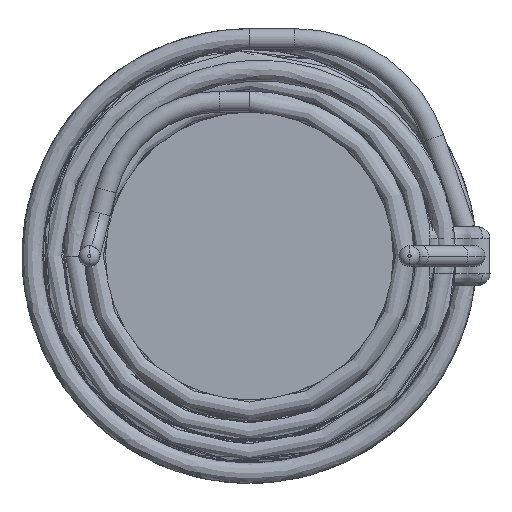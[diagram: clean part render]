
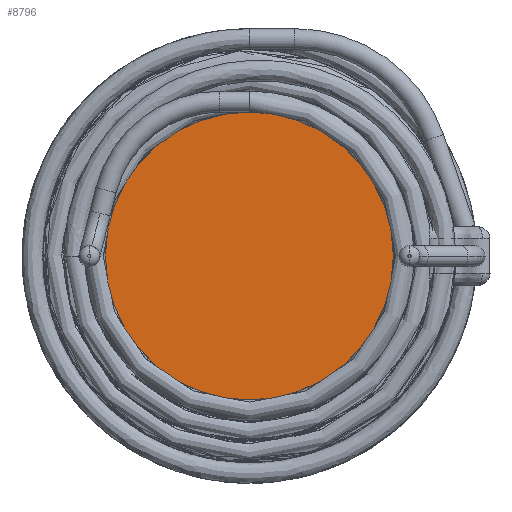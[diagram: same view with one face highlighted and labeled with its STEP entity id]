
A CAD part, front view. The second image highlights one B-rep face of the part: STEP entity #8796.
In plain terms, the highlighted planar face has unit normal (0, -1, 0).
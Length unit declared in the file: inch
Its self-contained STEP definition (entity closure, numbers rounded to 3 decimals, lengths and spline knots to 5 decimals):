
#113 = EDGE_CURVE ( 'NONE', #11225, #24213, #22740, .T. ) ;
#661 = CARTESIAN_POINT ( 'NONE',  ( 0., 0., 0.19291 ) ) ;
#4396 = DIRECTION ( 'NONE',  ( 0., 0., 1. ) ) ;
#7011 = DIRECTION ( 'NONE',  ( 0., 0., 1. ) ) ;
#7336 = DIRECTION ( 'NONE',  ( 0., 1., 0. ) ) ;
#7725 = AXIS2_PLACEMENT_3D ( 'NONE', #17826, #27146, #7011 ) ;
#8627 = AXIS2_PLACEMENT_3D ( 'NONE', #30408, #25028, #24510 ) ;
#8796 = ADVANCED_FACE ( 'NONE', ( #24024 ), #26012, .F. ) ;
#9121 = EDGE_CURVE ( 'NONE', #24213, #11225, #30206, .T. ) ;
#9800 = CARTESIAN_POINT ( 'NONE',  ( 0., 0., 0. ) ) ;
#11225 = VERTEX_POINT ( 'NONE', #23510 ) ;
#17608 = EDGE_LOOP ( 'NONE', ( #23652, #29989 ) ) ;
#17826 = CARTESIAN_POINT ( 'NONE',  ( 0., 0., 0. ) ) ;
#22740 = CIRCLE ( 'NONE', #7725, 0.19291 ) ;
#23510 = CARTESIAN_POINT ( 'NONE',  ( 0., 0., -0.19291 ) ) ;
#23652 = ORIENTED_EDGE ( 'NONE', *, *, #113, .F. ) ;
#24024 = FACE_OUTER_BOUND ( 'NONE', #17608, .T. ) ;
#24213 = VERTEX_POINT ( 'NONE', #661 ) ;
#24226 = AXIS2_PLACEMENT_3D ( 'NONE', #9800, #7336, #4396 ) ;
#24510 = DIRECTION ( 'NONE',  ( 0., 0., 1. ) ) ;
#25028 = DIRECTION ( 'NONE',  ( 0., 1., 0. ) ) ;
#26012 = PLANE ( 'NONE',  #8627 ) ;
#27146 = DIRECTION ( 'NONE',  ( 0., 1., 0. ) ) ;
#29989 = ORIENTED_EDGE ( 'NONE', *, *, #9121, .F. ) ;
#30206 = CIRCLE ( 'NONE', #24226, 0.19291 ) ;
#30408 = CARTESIAN_POINT ( 'NONE',  ( 0., 0., 0. ) ) ;
